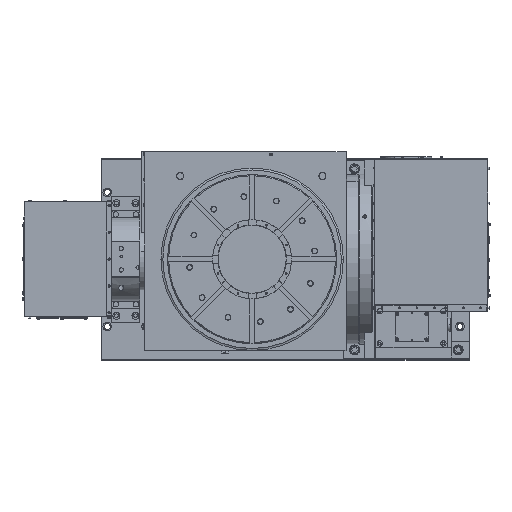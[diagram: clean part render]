
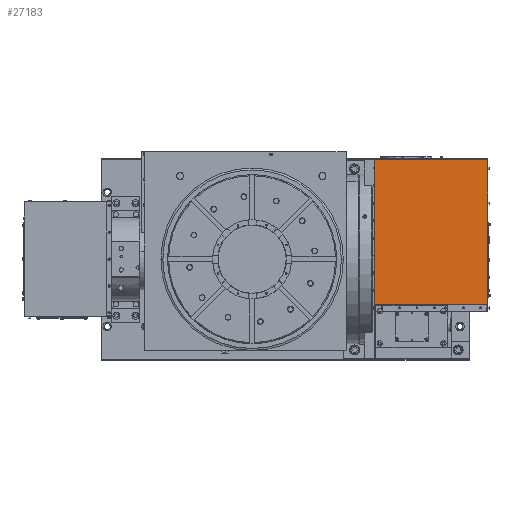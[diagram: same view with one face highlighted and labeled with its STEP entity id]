
A CAD part, top view. The second image highlights one B-rep face of the part: STEP entity #27183.
In plain terms, the highlighted planar face has unit normal (0, 0, 1).
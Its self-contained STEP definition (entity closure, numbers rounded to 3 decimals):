
#2767 = EDGE_CURVE ( 'NONE', #40926, #29269, #50492, .T. ) ;
#3269 = VECTOR ( 'NONE', #24860, 1000. ) ;
#5248 = VECTOR ( 'NONE', #49719, 1000. ) ;
#5314 = CARTESIAN_POINT ( 'NONE',  ( 456.8, 373.2, 615. ) ) ;
#6118 = CARTESIAN_POINT ( 'NONE',  ( 878.2, -170.2, 615. ) ) ;
#8775 = CARTESIAN_POINT ( 'NONE',  ( 878.2, 373.2, 615. ) ) ;
#10585 = LINE ( 'NONE', #32307, #5248 ) ;
#11373 = CARTESIAN_POINT ( 'NONE',  ( 878.2, -167., 615. ) ) ;
#12334 = ORIENTED_EDGE ( 'NONE', *, *, #21540, .F. ) ;
#12565 = LINE ( 'NONE', #34559, #20074 ) ;
#15752 = PLANE ( 'NONE',  #34427 ) ;
#18558 = ORIENTED_EDGE ( 'NONE', *, *, #2767, .T. ) ;
#18788 = ORIENTED_EDGE ( 'NONE', *, *, #37949, .F. ) ;
#20074 = VECTOR ( 'NONE', #51949, 1000. ) ;
#21540 = EDGE_CURVE ( 'NONE', #37046, #23742, #34014, .T. ) ;
#22094 = DIRECTION ( 'NONE',  ( -1., 0., 0. ) ) ;
#23742 = VERTEX_POINT ( 'NONE', #5314 ) ;
#24860 = DIRECTION ( 'NONE',  ( 0., 1., 0. ) ) ;
#26085 = DIRECTION ( 'NONE',  ( 0., 0., -1. ) ) ;
#27183 = ADVANCED_FACE ( 'NONE', ( #54869 ), #15752, .F. ) ;
#29269 = VERTEX_POINT ( 'NONE', #8775 ) ;
#29998 = CARTESIAN_POINT ( 'NONE',  ( 456.8, -167., 615. ) ) ;
#32307 = CARTESIAN_POINT ( 'NONE',  ( 878.2, 373.2, 615. ) ) ;
#33154 = CARTESIAN_POINT ( 'NONE',  ( 875., -167., 615. ) ) ;
#34014 = LINE ( 'NONE', #29998, #3269 ) ;
#34427 = AXIS2_PLACEMENT_3D ( 'NONE', #33154, #26085, #22094 ) ;
#34559 = CARTESIAN_POINT ( 'NONE',  ( 878.2, -170.2, 615. ) ) ;
#37046 = VERTEX_POINT ( 'NONE', #47336 ) ;
#37949 = EDGE_CURVE ( 'NONE', #40926, #37046, #12565, .T. ) ;
#38721 = ORIENTED_EDGE ( 'NONE', *, *, #55411, .F. ) ;
#40526 = VECTOR ( 'NONE', #46231, 1000. ) ;
#40926 = VERTEX_POINT ( 'NONE', #6118 ) ;
#46231 = DIRECTION ( 'NONE',  ( 0., 1., 0. ) ) ;
#47336 = CARTESIAN_POINT ( 'NONE',  ( 456.8, -170.2, 615. ) ) ;
#47361 = EDGE_LOOP ( 'NONE', ( #18558, #38721, #12334, #18788 ) ) ;
#49719 = DIRECTION ( 'NONE',  ( 1., 0., 0. ) ) ;
#50492 = LINE ( 'NONE', #11373, #40526 ) ;
#51949 = DIRECTION ( 'NONE',  ( -1., 0., 0. ) ) ;
#54869 = FACE_OUTER_BOUND ( 'NONE', #47361, .T. ) ;
#55411 = EDGE_CURVE ( 'NONE', #23742, #29269, #10585, .T. ) ;
